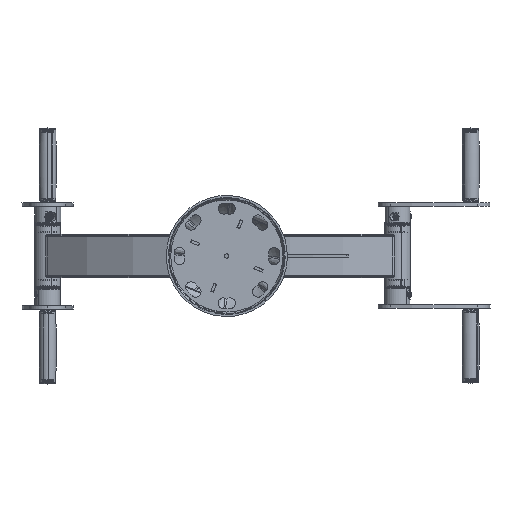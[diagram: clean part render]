
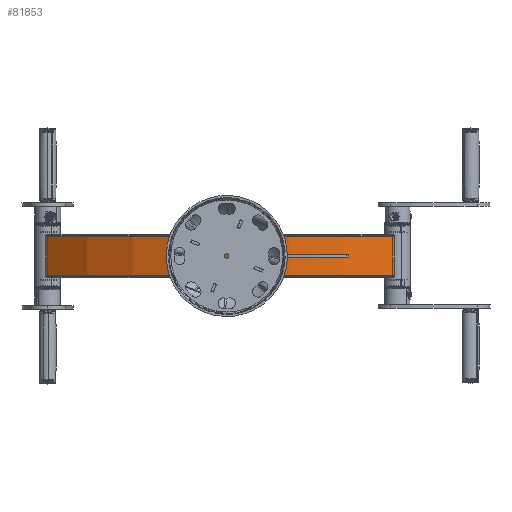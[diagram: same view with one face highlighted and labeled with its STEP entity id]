
A CAD part, front view. The second image highlights one B-rep face of the part: STEP entity #81853.
In plain terms, the highlighted cylindrical face has radius 775 mm (diameter 1550 mm), a partial arc.
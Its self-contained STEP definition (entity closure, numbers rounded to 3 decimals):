
#6578 = DIRECTION ( 'NONE',  ( 0., 0., -1. ) ) ;
#18063 = DIRECTION ( 'NONE',  ( 0., 0., -1. ) ) ;
#20485 = VERTEX_POINT ( 'NONE', #50084 ) ;
#22352 = ORIENTED_EDGE ( 'NONE', *, *, #123756, .F. ) ;
#26570 = DIRECTION ( 'NONE',  ( 0., 0., -1. ) ) ;
#28525 = ORIENTED_EDGE ( 'NONE', *, *, #30125, .F. ) ;
#28584 = CARTESIAN_POINT ( 'NONE',  ( 0., 0., -216.752 ) ) ;
#28729 = DIRECTION ( 'NONE',  ( -1., 0., 0. ) ) ;
#29690 = VECTOR ( 'NONE', #6578, 1000. ) ;
#30125 = EDGE_CURVE ( 'NONE', #33366, #109030, #56301, .T. ) ;
#33366 = VERTEX_POINT ( 'NONE', #120753 ) ;
#33800 = CARTESIAN_POINT ( 'NONE',  ( 428.516, 645.755, 0. ) ) ;
#36186 = FACE_OUTER_BOUND ( 'NONE', #42328, .T. ) ;
#37539 = CIRCLE ( 'NONE', #39592, 775. ) ;
#39592 = AXIS2_PLACEMENT_3D ( 'NONE', #56743, #26570, #76287 ) ;
#42328 = EDGE_LOOP ( 'NONE', ( #22352, #71314, #28525, #67739 ) ) ;
#50084 = CARTESIAN_POINT ( 'NONE',  ( 428.516, 645.755, -45. ) ) ;
#55687 = DIRECTION ( 'NONE',  ( -1., 0., 0. ) ) ;
#56301 = LINE ( 'NONE', #92917, #29690 ) ;
#56743 = CARTESIAN_POINT ( 'NONE',  ( 0., 0., -45. ) ) ;
#58163 = CYLINDRICAL_SURFACE ( 'NONE', #117983, 775. ) ;
#67739 = ORIENTED_EDGE ( 'NONE', *, *, #81153, .T. ) ;
#71314 = ORIENTED_EDGE ( 'NONE', *, *, #115160, .F. ) ;
#74623 = DIRECTION ( 'NONE',  ( 0., 0., -1. ) ) ;
#76287 = DIRECTION ( 'NONE',  ( -1., 0., 0. ) ) ;
#81153 = EDGE_CURVE ( 'NONE', #33366, #110092, #105923, .T. ) ;
#81853 = ADVANCED_FACE ( 'NONE', ( #36186 ), #58163, .T. ) ;
#86904 = CARTESIAN_POINT ( 'NONE',  ( 428.516, 645.755, 45. ) ) ;
#91990 = VECTOR ( 'NONE', #109421, 1000. ) ;
#92917 = CARTESIAN_POINT ( 'NONE',  ( -399.155, 664.305, -216.752 ) ) ;
#96287 = CARTESIAN_POINT ( 'NONE',  ( -399.155, 664.305, -45. ) ) ;
#105923 = CIRCLE ( 'NONE', #109987, 775. ) ;
#109030 = VERTEX_POINT ( 'NONE', #96287 ) ;
#109421 = DIRECTION ( 'NONE',  ( 0., 0., 1. ) ) ;
#109987 = AXIS2_PLACEMENT_3D ( 'NONE', #116282, #18063, #28729 ) ;
#110092 = VERTEX_POINT ( 'NONE', #86904 ) ;
#115160 = EDGE_CURVE ( 'NONE', #109030, #20485, #37539, .T. ) ;
#116282 = CARTESIAN_POINT ( 'NONE',  ( 0., 0., 45. ) ) ;
#117983 = AXIS2_PLACEMENT_3D ( 'NONE', #28584, #74623, #55687 ) ;
#120121 = LINE ( 'NONE', #33800, #91990 ) ;
#120753 = CARTESIAN_POINT ( 'NONE',  ( -399.155, 664.305, 45. ) ) ;
#123756 = EDGE_CURVE ( 'NONE', #20485, #110092, #120121, .T. ) ;
